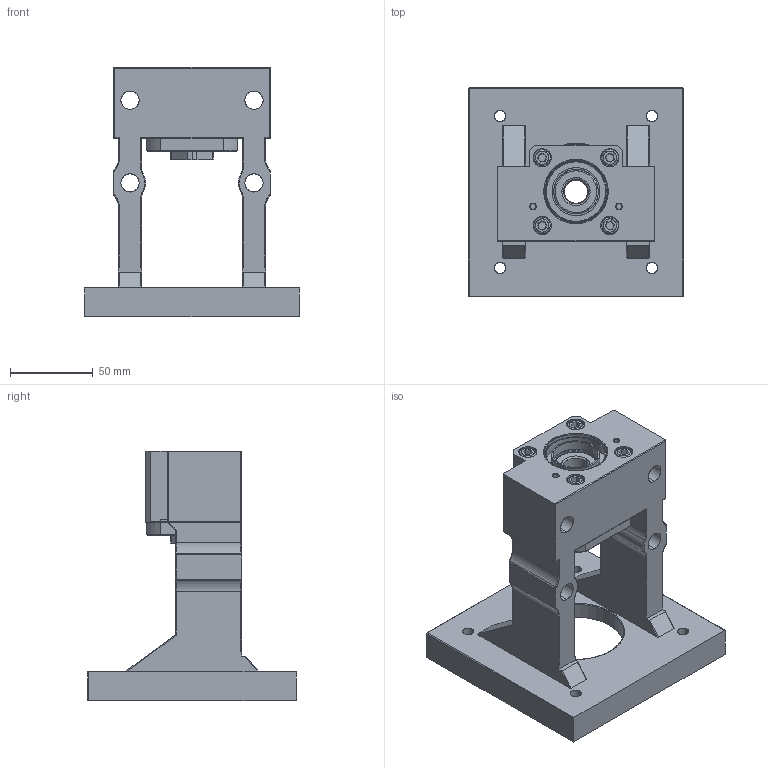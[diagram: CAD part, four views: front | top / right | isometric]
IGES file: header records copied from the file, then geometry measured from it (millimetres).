
Start section: SolidWorks IGES file using analytic representation for surfaces
Global section: file name: C:\Users\117\Desktop\1061208網站3D圖檔問題處理\傳動座\整合型\MBCS(F)\MBCS15\MBCS15-S.IGS,15HSolidWorks; native system: 2017; preprocessor: SolidWorks 2017; author: 117; date: 171228.154829; units: millimetre
Bounding box: 130 x 126 x 151 mm (x, y, z)
Surface area: 104913.3 mm2 (no closed solid volume)
Topology: 0 solids, 0 shells, 362 faces, 5264 edges, 5238 vertices
Faces by surface type: revolution 207, bspline 155
